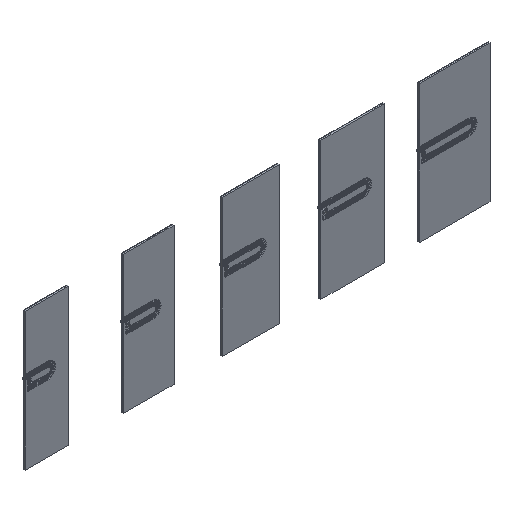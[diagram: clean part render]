
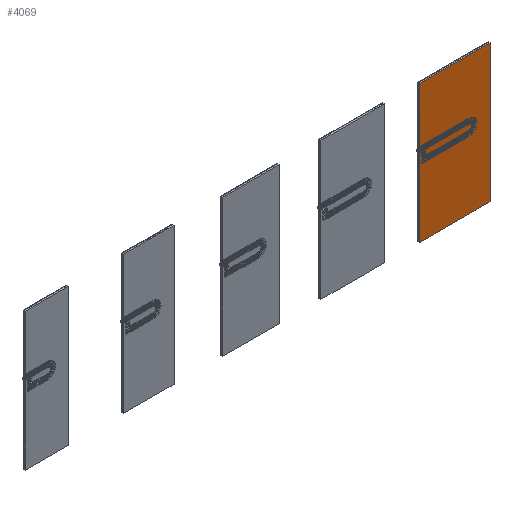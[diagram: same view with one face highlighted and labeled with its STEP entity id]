
A CAD part, isometric view. The second image highlights one B-rep face of the part: STEP entity #4069.
In plain terms, the highlighted planar face has unit normal (0, -1, 0).
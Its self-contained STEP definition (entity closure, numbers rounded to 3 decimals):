
#2549=FACE_OUTER_BOUND('',#7729,.T.);
#4069=ADVANCED_FACE('',(#2549),#4951,.F.);
#4951=PLANE('',#26607);
#6123=CIRCLE('',#26598,71.);
#6124=CIRCLE('',#26599,59.);
#6125=CIRCLE('',#26600,9.);
#6126=CIRCLE('',#26601,41.);
#6127=CIRCLE('',#26602,119.);
#6128=CIRCLE('',#26603,9.);
#6129=CIRCLE('',#26604,101.);
#6130=CIRCLE('',#26605,89.);
#6131=CIRCLE('',#26606,9.);
#7729=EDGE_LOOP('',(#12925,#12926,#12927,#12928,#12929,#12930,#12931,#12932,
#12933,#12934,#12935,#12936,#12937,#12938,#12939,#12940,#12941,#12942,#12943,
#12944,#12945,#12946,#12947,#12948,#12949,#12950,#12951,#12952));
#12925=ORIENTED_EDGE('',*,*,#19843,.T.);
#12926=ORIENTED_EDGE('',*,*,#19844,.T.);
#12927=ORIENTED_EDGE('',*,*,#19845,.T.);
#12928=ORIENTED_EDGE('',*,*,#19846,.F.);
#12929=ORIENTED_EDGE('',*,*,#19847,.F.);
#12930=ORIENTED_EDGE('',*,*,#19848,.F.);
#12931=ORIENTED_EDGE('',*,*,#19849,.F.);
#12932=ORIENTED_EDGE('',*,*,#19850,.T.);
#12933=ORIENTED_EDGE('',*,*,#19851,.T.);
#12934=ORIENTED_EDGE('',*,*,#19852,.T.);
#12935=ORIENTED_EDGE('',*,*,#19853,.T.);
#12936=ORIENTED_EDGE('',*,*,#19854,.T.);
#12937=ORIENTED_EDGE('',*,*,#19855,.F.);
#12938=ORIENTED_EDGE('',*,*,#19856,.F.);
#12939=ORIENTED_EDGE('',*,*,#19857,.T.);
#12940=ORIENTED_EDGE('',*,*,#19858,.F.);
#12941=ORIENTED_EDGE('',*,*,#19859,.F.);
#12942=ORIENTED_EDGE('',*,*,#19860,.F.);
#12943=ORIENTED_EDGE('',*,*,#19861,.F.);
#12944=ORIENTED_EDGE('',*,*,#19862,.T.);
#12945=ORIENTED_EDGE('',*,*,#19863,.T.);
#12946=ORIENTED_EDGE('',*,*,#19864,.T.);
#12947=ORIENTED_EDGE('',*,*,#19865,.T.);
#12948=ORIENTED_EDGE('',*,*,#19866,.F.);
#12949=ORIENTED_EDGE('',*,*,#19867,.F.);
#12950=ORIENTED_EDGE('',*,*,#19868,.F.);
#12951=ORIENTED_EDGE('',*,*,#19869,.F.);
#12952=ORIENTED_EDGE('',*,*,#19870,.T.);
#16803=VERTEX_POINT('',#43488);
#16804=VERTEX_POINT('',#43489);
#16805=VERTEX_POINT('',#43491);
#16806=VERTEX_POINT('',#43493);
#16807=VERTEX_POINT('',#43495);
#16808=VERTEX_POINT('',#43497);
#16809=VERTEX_POINT('',#43499);
#16810=VERTEX_POINT('',#43501);
#16811=VERTEX_POINT('',#43503);
#16812=VERTEX_POINT('',#43505);
#16813=VERTEX_POINT('',#43507);
#16814=VERTEX_POINT('',#43509);
#16815=VERTEX_POINT('',#43511);
#16816=VERTEX_POINT('',#43513);
#16817=VERTEX_POINT('',#43515);
#16818=VERTEX_POINT('',#43517);
#16819=VERTEX_POINT('',#43519);
#16820=VERTEX_POINT('',#43521);
#16821=VERTEX_POINT('',#43523);
#16822=VERTEX_POINT('',#43525);
#16823=VERTEX_POINT('',#43527);
#16824=VERTEX_POINT('',#43529);
#16825=VERTEX_POINT('',#43531);
#16826=VERTEX_POINT('',#43533);
#16827=VERTEX_POINT('',#43535);
#16828=VERTEX_POINT('',#43537);
#16829=VERTEX_POINT('',#43539);
#16830=VERTEX_POINT('',#43541);
#19843=EDGE_CURVE('',#16803,#16804,#6123,.T.);
#19844=EDGE_CURVE('',#16804,#16805,#22281,.T.);
#19845=EDGE_CURVE('',#16805,#16806,#22282,.T.);
#19846=EDGE_CURVE('',#16807,#16806,#22283,.T.);
#19847=EDGE_CURVE('',#16808,#16807,#6124,.T.);
#19848=EDGE_CURVE('',#16809,#16808,#22284,.T.);
#19849=EDGE_CURVE('',#16810,#16809,#6125,.T.);
#19850=EDGE_CURVE('',#16810,#16811,#22285,.T.);
#19851=EDGE_CURVE('',#16811,#16812,#6126,.T.);
#19852=EDGE_CURVE('',#16812,#16813,#22286,.T.);
#19853=EDGE_CURVE('',#16813,#16814,#22287,.T.);
#19854=EDGE_CURVE('',#16814,#16815,#22288,.T.);
#19855=EDGE_CURVE('',#16816,#16815,#22289,.T.);
#19856=EDGE_CURVE('',#16817,#16816,#22290,.T.);
#19857=EDGE_CURVE('',#16817,#16818,#22291,.T.);
#19858=EDGE_CURVE('',#16819,#16818,#22292,.T.);
#19859=EDGE_CURVE('',#16820,#16819,#6127,.T.);
#19860=EDGE_CURVE('',#16821,#16820,#22293,.T.);
#19861=EDGE_CURVE('',#16822,#16821,#6128,.T.);
#19862=EDGE_CURVE('',#16822,#16823,#22294,.T.);
#19863=EDGE_CURVE('',#16823,#16824,#6129,.T.);
#19864=EDGE_CURVE('',#16824,#16825,#22295,.T.);
#19865=EDGE_CURVE('',#16825,#16826,#22296,.T.);
#19866=EDGE_CURVE('',#16827,#16826,#22297,.T.);
#19867=EDGE_CURVE('',#16828,#16827,#6130,.T.);
#19868=EDGE_CURVE('',#16829,#16828,#22298,.T.);
#19869=EDGE_CURVE('',#16830,#16829,#6131,.T.);
#19870=EDGE_CURVE('',#16830,#16803,#22299,.T.);
#22281=LINE('',#43490,#24101);
#22282=LINE('',#43492,#24102);
#22283=LINE('',#43494,#24103);
#22284=LINE('',#43498,#24104);
#22285=LINE('',#43502,#24105);
#22286=LINE('',#43506,#24106);
#22287=LINE('',#43508,#24107);
#22288=LINE('',#43510,#24108);
#22289=LINE('',#43512,#24109);
#22290=LINE('',#43514,#24110);
#22291=LINE('',#43516,#24111);
#22292=LINE('',#43518,#24112);
#22293=LINE('',#43522,#24113);
#22294=LINE('',#43526,#24114);
#22295=LINE('',#43530,#24115);
#22296=LINE('',#43532,#24116);
#22297=LINE('',#43534,#24117);
#22298=LINE('',#43538,#24118);
#22299=LINE('',#43542,#24119);
#24101=VECTOR('',#32438,1.);
#24102=VECTOR('',#32439,1.);
#24103=VECTOR('',#32440,1.);
#24104=VECTOR('',#32443,1.);
#24105=VECTOR('',#32446,1.);
#24106=VECTOR('',#32449,1.);
#24107=VECTOR('',#32450,1.);
#24108=VECTOR('',#32451,1.);
#24109=VECTOR('',#32452,1.);
#24110=VECTOR('',#32453,1.);
#24111=VECTOR('',#32454,1.);
#24112=VECTOR('',#32455,1.);
#24113=VECTOR('',#32458,1.);
#24114=VECTOR('',#32461,1.);
#24115=VECTOR('',#32464,1.);
#24116=VECTOR('',#32465,1.);
#24117=VECTOR('',#32466,1.);
#24118=VECTOR('',#32469,1.);
#24119=VECTOR('',#32472,1.);
#26598=AXIS2_PLACEMENT_3D('',#43487,#32436,#32437);
#26599=AXIS2_PLACEMENT_3D('',#43496,#32441,#32442);
#26600=AXIS2_PLACEMENT_3D('',#43500,#32444,#32445);
#26601=AXIS2_PLACEMENT_3D('',#43504,#32447,#32448);
#26602=AXIS2_PLACEMENT_3D('',#43520,#32456,#32457);
#26603=AXIS2_PLACEMENT_3D('',#43524,#32459,#32460);
#26604=AXIS2_PLACEMENT_3D('',#43528,#32462,#32463);
#26605=AXIS2_PLACEMENT_3D('',#43536,#32467,#32468);
#26606=AXIS2_PLACEMENT_3D('',#43540,#32470,#32471);
#26607=AXIS2_PLACEMENT_3D('',#43543,#32473,#32474);
#32436=DIRECTION('',(0.,-1.,0.));
#32437=DIRECTION('',(0.,0.,-1.));
#32438=DIRECTION('',(-1.,0.,0.));
#32439=DIRECTION('',(0.,0.,-1.));
#32440=DIRECTION('',(-1.,0.,0.));
#32441=DIRECTION('',(0.,-1.,0.));
#32442=DIRECTION('',(0.,0.,-1.));
#32443=DIRECTION('',(1.,0.,0.));
#32444=DIRECTION('',(0.,-1.,0.));
#32445=DIRECTION('',(0.,0.,-1.));
#32446=DIRECTION('',(1.,0.,0.));
#32447=DIRECTION('',(0.,-1.,0.));
#32448=DIRECTION('',(0.,0.,-1.));
#32449=DIRECTION('',(-1.,0.,0.));
#32450=DIRECTION('',(0.,0.,-1.));
#32451=DIRECTION('',(1.,0.,0.));
#32452=DIRECTION('',(0.,0.,-1.));
#32453=DIRECTION('',(1.,0.,0.));
#32454=DIRECTION('',(0.,0.,-1.));
#32455=DIRECTION('',(-1.,0.,0.));
#32456=DIRECTION('',(0.,-1.,0.));
#32457=DIRECTION('',(0.,0.,-1.));
#32458=DIRECTION('',(1.,0.,0.));
#32459=DIRECTION('',(0.,-1.,0.));
#32460=DIRECTION('',(0.,0.,-1.));
#32461=DIRECTION('',(1.,0.,0.));
#32462=DIRECTION('',(0.,-1.,0.));
#32463=DIRECTION('',(0.,0.,-1.));
#32464=DIRECTION('',(-1.,0.,0.));
#32465=DIRECTION('',(0.,0.,-1.));
#32466=DIRECTION('',(-1.,0.,0.));
#32467=DIRECTION('',(0.,-1.,0.));
#32468=DIRECTION('',(0.,0.,-1.));
#32469=DIRECTION('',(1.,0.,0.));
#32470=DIRECTION('',(0.,-1.,0.));
#32471=DIRECTION('',(0.,0.,-1.));
#32472=DIRECTION('',(1.,0.,0.));
#32473=DIRECTION('',(0.,1.,0.));
#32474=DIRECTION('',(-1.,0.,0.));
#43487=CARTESIAN_POINT('',(6209.5,-39.3,1104.));
#43488=CARTESIAN_POINT('',(6209.5,-39.3,1033.));
#43489=CARTESIAN_POINT('',(6209.5,-39.3,1175.));
#43490=CARTESIAN_POINT('',(6209.5,-39.3,1175.));
#43491=CARTESIAN_POINT('',(5480.5,-39.3,1175.));
#43492=CARTESIAN_POINT('',(5480.5,-39.3,2027.));
#43493=CARTESIAN_POINT('',(5480.5,-39.3,1163.));
#43494=CARTESIAN_POINT('',(6209.5,-39.3,1163.));
#43495=CARTESIAN_POINT('',(6209.5,-39.3,1163.));
#43496=CARTESIAN_POINT('',(6209.5,-39.3,1104.));
#43497=CARTESIAN_POINT('',(6209.5,-39.3,1045.));
#43498=CARTESIAN_POINT('',(5590.5,-39.3,1045.));
#43499=CARTESIAN_POINT('',(5590.5,-39.3,1045.));
#43500=CARTESIAN_POINT('',(5590.5,-39.3,1054.));
#43501=CARTESIAN_POINT('',(5590.5,-39.3,1063.));
#43502=CARTESIAN_POINT('',(5590.5,-39.3,1063.));
#43503=CARTESIAN_POINT('',(6209.5,-39.3,1063.));
#43504=CARTESIAN_POINT('',(6209.5,-39.3,1104.));
#43505=CARTESIAN_POINT('',(6209.5,-39.3,1145.));
#43506=CARTESIAN_POINT('',(6209.5,-39.3,1145.));
#43507=CARTESIAN_POINT('',(5480.5,-39.3,1145.));
#43508=CARTESIAN_POINT('',(5480.5,-39.3,2027.));
#43509=CARTESIAN_POINT('',(5480.5,-39.3,0.));
#43510=CARTESIAN_POINT('',(5680.5,-39.3,0.));
#43511=CARTESIAN_POINT('',(6519.5,-39.3,0.));
#43512=CARTESIAN_POINT('',(6519.5,-39.3,2027.));
#43513=CARTESIAN_POINT('',(6519.5,-39.3,2027.));
#43514=CARTESIAN_POINT('',(5680.5,-39.3,2027.));
#43515=CARTESIAN_POINT('',(5480.5,-39.3,2027.));
#43516=CARTESIAN_POINT('',(5480.5,-39.3,2027.));
#43517=CARTESIAN_POINT('',(5480.5,-39.3,1223.));
#43518=CARTESIAN_POINT('',(6209.5,-39.3,1223.));
#43519=CARTESIAN_POINT('',(6209.5,-39.3,1223.));
#43520=CARTESIAN_POINT('',(6209.5,-39.3,1104.));
#43521=CARTESIAN_POINT('',(6209.5,-39.3,985.));
#43522=CARTESIAN_POINT('',(5590.5,-39.3,985.));
#43523=CARTESIAN_POINT('',(5590.5,-39.3,985.));
#43524=CARTESIAN_POINT('',(5590.5,-39.3,994.));
#43525=CARTESIAN_POINT('',(5590.5,-39.3,1003.));
#43526=CARTESIAN_POINT('',(5590.5,-39.3,1003.));
#43527=CARTESIAN_POINT('',(6209.5,-39.3,1003.));
#43528=CARTESIAN_POINT('',(6209.5,-39.3,1104.));
#43529=CARTESIAN_POINT('',(6209.5,-39.3,1205.));
#43530=CARTESIAN_POINT('',(6209.5,-39.3,1205.));
#43531=CARTESIAN_POINT('',(5480.5,-39.3,1205.));
#43532=CARTESIAN_POINT('',(5480.5,-39.3,2027.));
#43533=CARTESIAN_POINT('',(5480.5,-39.3,1193.));
#43534=CARTESIAN_POINT('',(6209.5,-39.3,1193.));
#43535=CARTESIAN_POINT('',(6209.5,-39.3,1193.));
#43536=CARTESIAN_POINT('',(6209.5,-39.3,1104.));
#43537=CARTESIAN_POINT('',(6209.5,-39.3,1015.));
#43538=CARTESIAN_POINT('',(5590.5,-39.3,1015.));
#43539=CARTESIAN_POINT('',(5590.5,-39.3,1015.));
#43540=CARTESIAN_POINT('',(5590.5,-39.3,1024.));
#43541=CARTESIAN_POINT('',(5590.5,-39.3,1033.));
#43542=CARTESIAN_POINT('',(5590.5,-39.3,1033.));
#43543=CARTESIAN_POINT('',(5680.5,-39.3,2027.));
